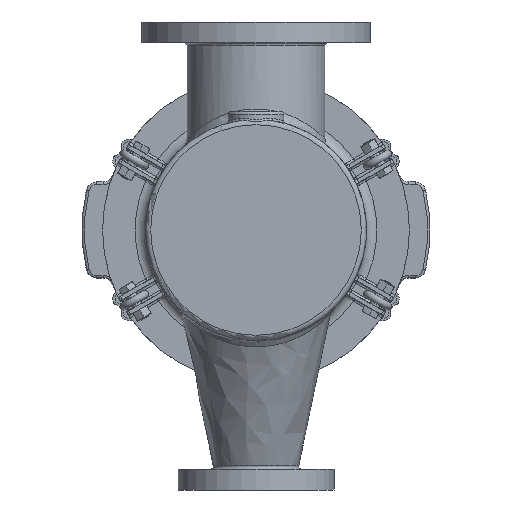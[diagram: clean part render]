
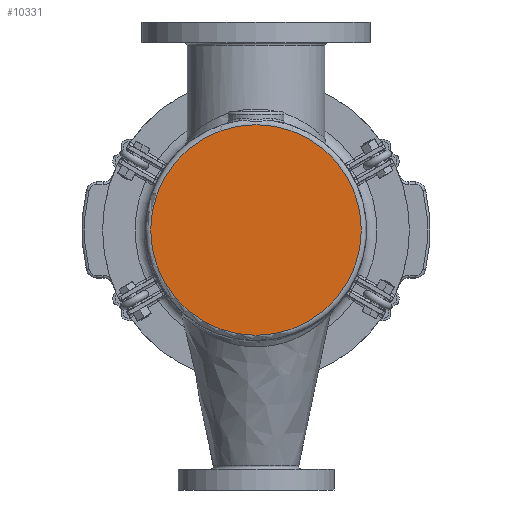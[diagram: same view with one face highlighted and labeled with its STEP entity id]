
A CAD part, front view. The second image highlights one B-rep face of the part: STEP entity #10331.
In plain terms, the highlighted planar face has unit normal (0, -1, 0).
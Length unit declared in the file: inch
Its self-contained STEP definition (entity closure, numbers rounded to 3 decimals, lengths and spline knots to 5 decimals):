
#1328=PLANE('',#11032);
#2204=FACE_OUTER_BOUND('',#2876,.T.);
#2876=EDGE_LOOP('',(#6872));
#3715=CIRCLE('',#11024,5.0625);
#4424=VERTEX_POINT('',#15955);
#5368=EDGE_CURVE('',#4424,#4424,#3715,.T.);
#6872=ORIENTED_EDGE('',*,*,#5368,.F.);
#10331=ADVANCED_FACE('',(#2204),#1328,.F.);
#11024=AXIS2_PLACEMENT_3D('',#15956,#12436,#12437);
#11032=AXIS2_PLACEMENT_3D('',#15967,#12452,#12453);
#12436=DIRECTION('center_axis',(0.,1.,0.));
#12437=DIRECTION('ref_axis',(1.,0.,0.));
#12452=DIRECTION('center_axis',(0.,1.,0.));
#12453=DIRECTION('ref_axis',(0.,0.,1.));
#15955=CARTESIAN_POINT('',(-5.0625,0.,0.));
#15956=CARTESIAN_POINT('Origin',(0.,0.,0.));
#15967=CARTESIAN_POINT('Origin',(0.,0.,0.));
